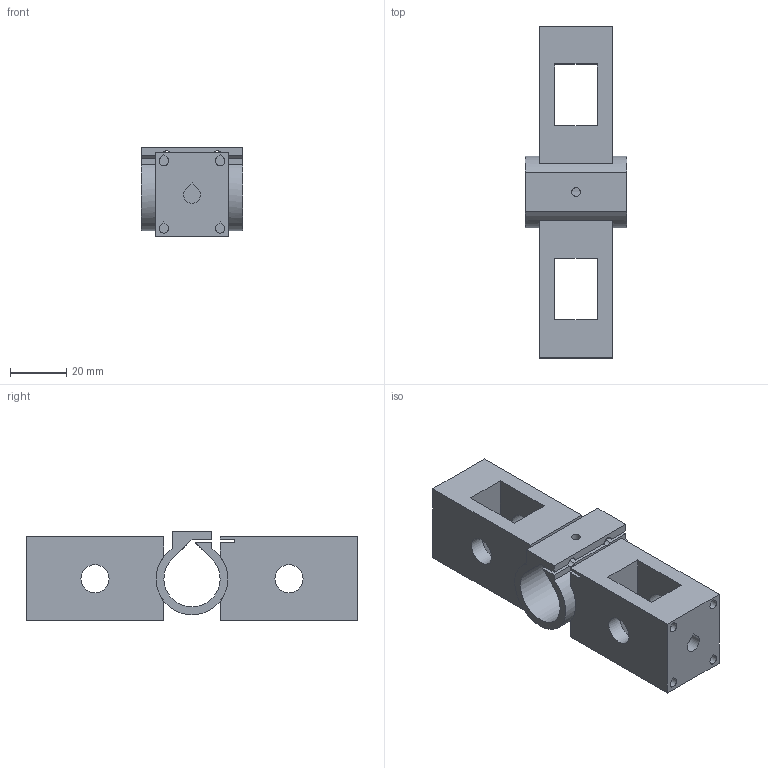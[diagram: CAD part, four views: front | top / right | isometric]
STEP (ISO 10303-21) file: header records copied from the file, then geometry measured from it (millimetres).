
FILE_DESCRIPTION(('Open CASCADE Model'),'2;1');
FILE_NAME('COMPOUND','2026-10-16T15:25:18',('Author'),('Open CASCADE'), 'Open CASCADE STEP processor 7.8','build123d','Unknown');
FILE_SCHEMA(('AUTOMOTIVE_DESIGN { 1 0 10303 214 1 1 1 1 }'));
Length unit declared in the file: millimetre
Products named in the file (2): =>[0:1:1:2]; COMPOUND
Assembly tree (1 placements, depth 2):
  =>[0:1:1:2]
    COMPOUND
Bounding box: 36 x 118 x 32 mm (x, y, z)
Volume: 60470.1 mm3; surface area: 23522.4 mm2
Topology: 1 solids, 1 shells, 96 faces, 254 edges, 169 vertices
Faces by surface type: plane 74, cylinder 22
Full cylindrical faces by diameter (mm): 3.1 x1, 3.3 x2, 10 x4
Entity records: 6467 total; most frequent: CARTESIAN_POINT 1276, DIRECTION 970, LINE 618, VECTOR 618, ORIENTED_EDGE 508, PCURVE 508, DEFINITIONAL_REPRESENTATION 508, EDGE_CURVE 254
